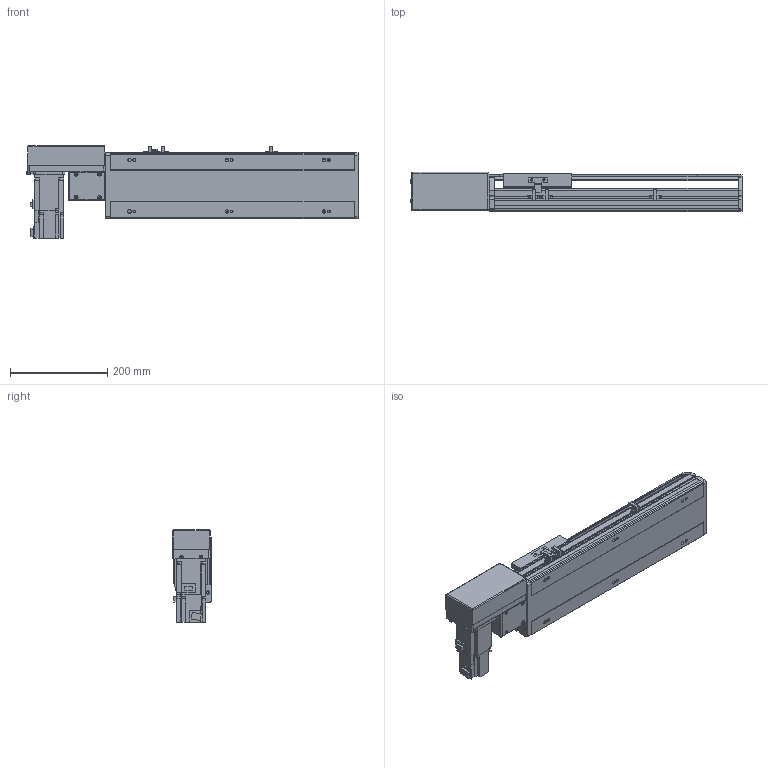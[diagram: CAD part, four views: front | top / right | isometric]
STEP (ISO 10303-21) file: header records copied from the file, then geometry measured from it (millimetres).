
FILE_DESCRIPTION(/* description */ ('STEP AP214'),/* implementation_level */ '2;1');
FILE_NAME(/* name */ 'PBS140-P40-S250-R-T40-C1-N(0)',/* time_stamp */ '2022-06-06T03:26:39+02:00',/* author */ ('License CC BY-ND 4.0'),/* organization */ ('CADENAS'),/* preprocessor_version */ 'ST-DEVELOPER v18.102',/* originating_system */ 'PARTsolutions',/* authorisation */ ' ');
FILE_SCHEMA (('AUTOMOTIVE_DESIGN {1 0 10303 214 3 1 1}'));
Length unit declared in the file: millimetre
Products named in the file (7): PBS140-P40-S250-R-T40-C1-N(0); PBS140_sensor; PBS140_plant; PBS140_sliser; T40-p1; PBS140T-R_motors; PBS140-S250()_body
Assembly tree (8 placements, depth 2):
  PBS140-P40-S250-R-T40-C1-N(0)
    PBS140_sensor  x3
    PBS140_plant
    PBS140_sliser
    T40-p1
    PBS140T-R_motors
    PBS140-S250()_body
Bounding box: 683 x 80.5 x 189.7 mm (x, y, z)
Volume: 3370627.2 mm3; surface area: 618911.2 mm2
Topology: 8 solids, 8 shells, 995 faces, 2636 edges, 1723 vertices
Faces by surface type: plane 662, cylinder 291, cone 32, sphere 8, torus 2
Full cylindrical faces by diameter (mm): 3.242 x4, 4 x2, 4.134 x4, 4.4 x8, 4.5 x2, 4.8 x4, 4.917 x14, 5.5 x7, 6 x2, 7 x8, 7.5 x8, 8 x12, 8.5 x4, 10.5 x6, 14 x1, 30 x2, 50 x2
Entity records: 28355 total; most frequent: CARTESIAN_POINT 5105, DIRECTION 4847, ORIENTED_EDGE 4612, EDGE_CURVE 2306, AXIS2_PLACEMENT_3D 1657, VERTEX_POINT 1581, LINE 1533, VECTOR 1533
